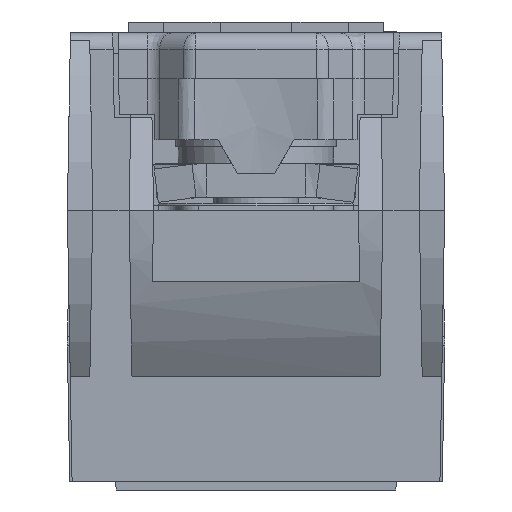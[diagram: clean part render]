
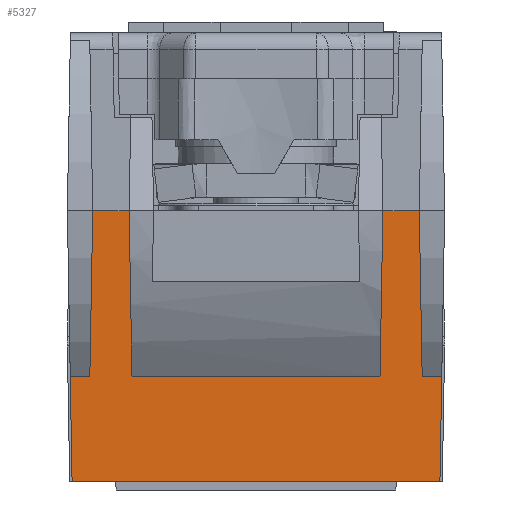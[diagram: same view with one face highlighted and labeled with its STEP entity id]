
A CAD part, front view. The second image highlights one B-rep face of the part: STEP entity #5327.
In plain terms, the highlighted planar face has unit normal (0, -1, -0.018).
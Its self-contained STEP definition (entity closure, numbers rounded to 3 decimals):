
#5224=CARTESIAN_POINT('',(5.91,-42.,16.511));
#5225=DIRECTION('',(0.,-1.,-0.017));
#5226=DIRECTION('',(-1.0,0.0,0.0));
#5227=AXIS2_PLACEMENT_3D('',#5224,#5225,#5226);
#5228=PLANE('',#5227);
#5229=CARTESIAN_POINT('',(7.328,-41.828,6.685));
#5230=VERTEX_POINT('',#5229);
#5231=CARTESIAN_POINT('',(-7.328,-41.828,6.685));
#5232=VERTEX_POINT('',#5231);
#5233=CARTESIAN_POINT('',(7.328,-41.828,6.685));
#5234=DIRECTION('',(-1.0,0.0,0.0));
#5235=VECTOR('',#5234,14.657);
#5236=LINE('',#5233,#5235);
#5237=EDGE_CURVE('',#5230,#5232,#5236,.T.);
#5238=ORIENTED_EDGE('',*,*,#5237,.T.);
#5239=CARTESIAN_POINT('',(-7.5,-42.,16.511));
#5240=VERTEX_POINT('',#5239);
#5241=CARTESIAN_POINT('',(-7.5,-42.,16.511));
#5242=DIRECTION('',(0.017,0.017,-1.));
#5243=VECTOR('',#5242,9.829);
#5244=LINE('',#5241,#5243);
#5245=EDGE_CURVE('',#5232,#5240,#5244,.F.);
#5246=ORIENTED_EDGE('',*,*,#5245,.T.);
#5247=CARTESIAN_POINT('',(-9.65,-42.,16.511));
#5248=VERTEX_POINT('',#5247);
#5249=CARTESIAN_POINT('',(-9.65,-42.,16.511));
#5250=DIRECTION('',(1.0,0.0,0.0));
#5251=VECTOR('',#5250,2.15);
#5252=LINE('',#5249,#5251);
#5253=EDGE_CURVE('',#5248,#5240,#5252,.T.);
#5254=ORIENTED_EDGE('',*,*,#5253,.F.);
#5255=CARTESIAN_POINT('',(-9.822,-41.828,6.685));
#5256=VERTEX_POINT('',#5255);
#5257=CARTESIAN_POINT('',(-9.65,-42.,16.511));
#5258=DIRECTION('',(-0.017,0.017,-1.));
#5259=VECTOR('',#5258,9.829);
#5260=LINE('',#5257,#5259);
#5261=EDGE_CURVE('',#5248,#5256,#5260,.T.);
#5262=ORIENTED_EDGE('',*,*,#5261,.T.);
#5263=CARTESIAN_POINT('',(-10.978,-41.828,6.685));
#5264=VERTEX_POINT('',#5263);
#5265=CARTESIAN_POINT('',(-9.822,-41.828,6.685));
#5266=DIRECTION('',(-1.0,0.0,0.0));
#5267=VECTOR('',#5266,1.157);
#5268=LINE('',#5265,#5267);
#5269=EDGE_CURVE('',#5256,#5264,#5268,.T.);
#5270=ORIENTED_EDGE('',*,*,#5269,.T.);
#5271=CARTESIAN_POINT('',(-10.871,-41.721,0.511));
#5272=VERTEX_POINT('',#5271);
#5273=CARTESIAN_POINT('',(-10.978,-41.828,6.685));
#5274=DIRECTION('',(0.017,0.017,-1.));
#5275=VECTOR('',#5274,6.176);
#5276=LINE('',#5273,#5275);
#5277=EDGE_CURVE('',#5264,#5272,#5276,.T.);
#5278=ORIENTED_EDGE('',*,*,#5277,.T.);
#5279=CARTESIAN_POINT('',(10.871,-41.721,0.511));
#5280=VERTEX_POINT('',#5279);
#5281=CARTESIAN_POINT('',(-10.871,-41.721,0.511));
#5282=DIRECTION('',(1.0,0.0,0.0));
#5283=VECTOR('',#5282,21.741);
#5284=LINE('',#5281,#5283);
#5285=EDGE_CURVE('',#5272,#5280,#5284,.T.);
#5286=ORIENTED_EDGE('',*,*,#5285,.T.);
#5287=CARTESIAN_POINT('',(10.978,-41.828,6.685));
#5288=VERTEX_POINT('',#5287);
#5289=CARTESIAN_POINT('',(10.978,-41.828,6.685));
#5290=DIRECTION('',(-0.017,0.017,-1.));
#5291=VECTOR('',#5290,6.176);
#5292=LINE('',#5289,#5291);
#5293=EDGE_CURVE('',#5288,#5280,#5292,.T.);
#5294=ORIENTED_EDGE('',*,*,#5293,.F.);
#5295=CARTESIAN_POINT('',(9.822,-41.828,6.685));
#5296=VERTEX_POINT('',#5295);
#5297=CARTESIAN_POINT('',(10.978,-41.828,6.685));
#5298=DIRECTION('',(-1.0,0.0,0.0));
#5299=VECTOR('',#5298,1.157);
#5300=LINE('',#5297,#5299);
#5301=EDGE_CURVE('',#5288,#5296,#5300,.T.);
#5302=ORIENTED_EDGE('',*,*,#5301,.T.);
#5303=CARTESIAN_POINT('',(9.65,-42.,16.511));
#5304=VERTEX_POINT('',#5303);
#5305=CARTESIAN_POINT('',(9.822,-41.828,6.685));
#5306=DIRECTION('',(-0.017,-0.017,1.));
#5307=VECTOR('',#5306,9.829);
#5308=LINE('',#5305,#5307);
#5309=EDGE_CURVE('',#5296,#5304,#5308,.T.);
#5310=ORIENTED_EDGE('',*,*,#5309,.T.);
#5311=CARTESIAN_POINT('',(7.5,-42.,16.511));
#5312=VERTEX_POINT('',#5311);
#5313=CARTESIAN_POINT('',(7.5,-42.,16.511));
#5314=DIRECTION('',(1.0,0.0,0.0));
#5315=VECTOR('',#5314,2.15);
#5316=LINE('',#5313,#5315);
#5317=EDGE_CURVE('',#5312,#5304,#5316,.T.);
#5318=ORIENTED_EDGE('',*,*,#5317,.F.);
#5319=CARTESIAN_POINT('',(7.5,-42.,16.511));
#5320=DIRECTION('',(-0.017,0.017,-1.));
#5321=VECTOR('',#5320,9.829);
#5322=LINE('',#5319,#5321);
#5323=EDGE_CURVE('',#5312,#5230,#5322,.T.);
#5324=ORIENTED_EDGE('',*,*,#5323,.T.);
#5325=EDGE_LOOP('',(#5238,#5246,#5254,#5262,#5270,#5278,#5286,#5294,#5302,#5310,#5318,#5324));
#5326=FACE_OUTER_BOUND('',#5325,.T.);
#5327=ADVANCED_FACE('',(#5326),#5228,.T.);
